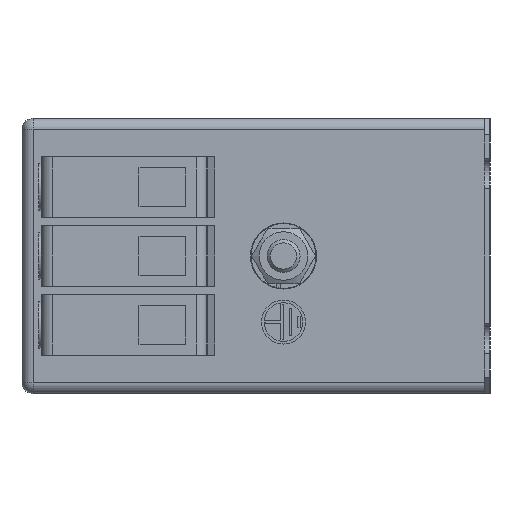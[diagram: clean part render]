
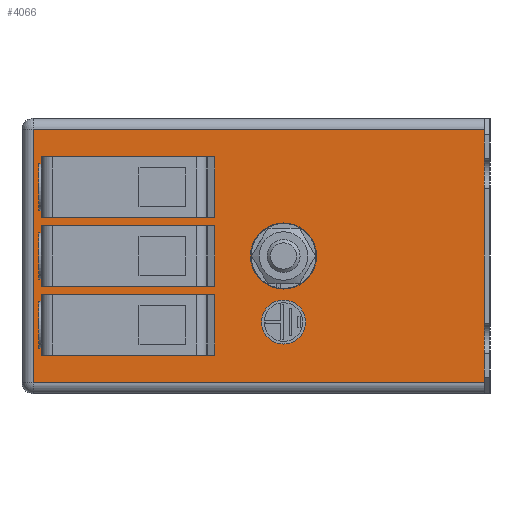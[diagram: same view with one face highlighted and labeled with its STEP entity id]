
A CAD part, left-side view. The second image highlights one B-rep face of the part: STEP entity #4066.
In plain terms, the highlighted planar face has unit normal (-1, 0, 0).
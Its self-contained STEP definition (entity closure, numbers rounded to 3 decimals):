
#81=LINE('',#6077,#447);
#82=LINE('',#6079,#448);
#83=LINE('',#6081,#449);
#84=LINE('',#6082,#450);
#85=LINE('',#6085,#451);
#86=LINE('',#6087,#452);
#87=LINE('',#6089,#453);
#88=LINE('',#6090,#454);
#89=LINE('',#6093,#455);
#90=LINE('',#6095,#456);
#91=LINE('',#6097,#457);
#92=LINE('',#6098,#458);
#93=LINE('',#6103,#459);
#94=LINE('',#6105,#460);
#95=LINE('',#6107,#461);
#96=LINE('',#6108,#462);
#447=VECTOR('',#4899,10.);
#448=VECTOR('',#4900,10.);
#449=VECTOR('',#4901,10.);
#450=VECTOR('',#4902,10.);
#451=VECTOR('',#4903,10.);
#452=VECTOR('',#4904,10.);
#453=VECTOR('',#4905,10.);
#454=VECTOR('',#4906,10.);
#455=VECTOR('',#4907,10.);
#456=VECTOR('',#4908,10.);
#457=VECTOR('',#4909,10.);
#458=VECTOR('',#4910,10.);
#459=VECTOR('',#4913,10.);
#460=VECTOR('',#4914,10.);
#461=VECTOR('',#4915,10.);
#462=VECTOR('',#4916,10.);
#830=PLANE('',#4378);
#1001=FACE_BOUND('',#1384,.T.);
#1002=FACE_BOUND('',#1385,.T.);
#1003=FACE_BOUND('',#1386,.T.);
#1004=FACE_BOUND('',#1387,.T.);
#1005=FACE_BOUND('',#1388,.T.);
#1105=FACE_OUTER_BOUND('',#1383,.T.);
#1383=EDGE_LOOP('',(#2835,#2836,#2837,#2838));
#1384=EDGE_LOOP('',(#2839,#2840,#2841,#2842));
#1385=EDGE_LOOP('',(#2843,#2844,#2845,#2846));
#1386=EDGE_LOOP('',(#2847));
#1387=EDGE_LOOP('',(#2848,#2849,#2850,#2851));
#1388=EDGE_LOOP('',(#2852));
#1659=CIRCLE('',#4377,5.525);
#1660=CIRCLE('',#4379,4.);
#1821=VERTEX_POINT('',#6072);
#1822=VERTEX_POINT('',#6075);
#1823=VERTEX_POINT('',#6076);
#1824=VERTEX_POINT('',#6078);
#1825=VERTEX_POINT('',#6080);
#1826=VERTEX_POINT('',#6083);
#1827=VERTEX_POINT('',#6084);
#1828=VERTEX_POINT('',#6086);
#1829=VERTEX_POINT('',#6088);
#1830=VERTEX_POINT('',#6091);
#1831=VERTEX_POINT('',#6092);
#1832=VERTEX_POINT('',#6094);
#1833=VERTEX_POINT('',#6096);
#1834=VERTEX_POINT('',#6099);
#1835=VERTEX_POINT('',#6101);
#1836=VERTEX_POINT('',#6102);
#1837=VERTEX_POINT('',#6104);
#1838=VERTEX_POINT('',#6106);
#2211=EDGE_CURVE('',#1821,#1821,#1659,.T.);
#2212=EDGE_CURVE('',#1822,#1823,#81,.T.);
#2213=EDGE_CURVE('',#1824,#1822,#82,.T.);
#2214=EDGE_CURVE('',#1825,#1824,#83,.T.);
#2215=EDGE_CURVE('',#1823,#1825,#84,.T.);
#2216=EDGE_CURVE('',#1826,#1827,#85,.T.);
#2217=EDGE_CURVE('',#1827,#1828,#86,.T.);
#2218=EDGE_CURVE('',#1828,#1829,#87,.T.);
#2219=EDGE_CURVE('',#1829,#1826,#88,.T.);
#2220=EDGE_CURVE('',#1830,#1831,#89,.T.);
#2221=EDGE_CURVE('',#1831,#1832,#90,.T.);
#2222=EDGE_CURVE('',#1832,#1833,#91,.T.);
#2223=EDGE_CURVE('',#1833,#1830,#92,.T.);
#2224=EDGE_CURVE('',#1834,#1834,#1660,.T.);
#2225=EDGE_CURVE('',#1835,#1836,#93,.T.);
#2226=EDGE_CURVE('',#1836,#1837,#94,.T.);
#2227=EDGE_CURVE('',#1837,#1838,#95,.T.);
#2228=EDGE_CURVE('',#1838,#1835,#96,.T.);
#2835=ORIENTED_EDGE('',*,*,#2212,.F.);
#2836=ORIENTED_EDGE('',*,*,#2213,.F.);
#2837=ORIENTED_EDGE('',*,*,#2214,.F.);
#2838=ORIENTED_EDGE('',*,*,#2215,.F.);
#2839=ORIENTED_EDGE('',*,*,#2216,.T.);
#2840=ORIENTED_EDGE('',*,*,#2217,.T.);
#2841=ORIENTED_EDGE('',*,*,#2218,.T.);
#2842=ORIENTED_EDGE('',*,*,#2219,.T.);
#2843=ORIENTED_EDGE('',*,*,#2220,.T.);
#2844=ORIENTED_EDGE('',*,*,#2221,.T.);
#2845=ORIENTED_EDGE('',*,*,#2222,.T.);
#2846=ORIENTED_EDGE('',*,*,#2223,.T.);
#2847=ORIENTED_EDGE('',*,*,#2224,.T.);
#2848=ORIENTED_EDGE('',*,*,#2225,.T.);
#2849=ORIENTED_EDGE('',*,*,#2226,.T.);
#2850=ORIENTED_EDGE('',*,*,#2227,.T.);
#2851=ORIENTED_EDGE('',*,*,#2228,.T.);
#2852=ORIENTED_EDGE('',*,*,#2211,.T.);
#4066=ADVANCED_FACE('',(#1105,#1001,#1002,#1003,#1004,#1005),#830,.T.);
#4377=AXIS2_PLACEMENT_3D('',#6073,#4895,#4896);
#4378=AXIS2_PLACEMENT_3D('',#6074,#4897,#4898);
#4379=AXIS2_PLACEMENT_3D('',#6100,#4911,#4912);
#4895=DIRECTION('center_axis',(1.,0.,0.));
#4896=DIRECTION('ref_axis',(0.,0.,-1.));
#4897=DIRECTION('center_axis',(-1.,0.,0.));
#4898=DIRECTION('ref_axis',(0.,0.,1.));
#4899=DIRECTION('',(0.,-1.,0.));
#4900=DIRECTION('',(0.,0.,1.));
#4901=DIRECTION('',(0.,1.,0.));
#4902=DIRECTION('',(0.,0.,-1.));
#4903=DIRECTION('',(0.,1.,0.));
#4904=DIRECTION('',(0.,0.,1.));
#4905=DIRECTION('',(0.,-1.,0.));
#4906=DIRECTION('',(0.,0.,-1.));
#4907=DIRECTION('',(0.,1.,0.));
#4908=DIRECTION('',(0.,0.,1.));
#4909=DIRECTION('',(0.,-1.,0.));
#4910=DIRECTION('',(0.,0.,-1.));
#4911=DIRECTION('center_axis',(1.,0.,0.));
#4912=DIRECTION('ref_axis',(0.,0.,-1.));
#4913=DIRECTION('',(0.,1.,0.));
#4914=DIRECTION('',(0.,0.,1.));
#4915=DIRECTION('',(0.,-1.,0.));
#4916=DIRECTION('',(0.,0.,-1.));
#6072=CARTESIAN_POINT('',(-140.,37.5,-5.525));
#6073=CARTESIAN_POINT('Origin',(-140.,37.5,0.));
#6074=CARTESIAN_POINT('Origin',(-140.,1.,-25.));
#6075=CARTESIAN_POINT('',(-140.,83.,23.));
#6076=CARTESIAN_POINT('',(-140.,1.,23.));
#6077=CARTESIAN_POINT('',(-140.,0.5,23.));
#6078=CARTESIAN_POINT('',(-140.,83.,-23.));
#6079=CARTESIAN_POINT('',(-140.,83.,-12.5));
#6080=CARTESIAN_POINT('',(-140.,1.,-23.));
#6081=CARTESIAN_POINT('',(-140.,0.5,-23.));
#6082=CARTESIAN_POINT('',(-140.,1.,-12.5));
#6083=CARTESIAN_POINT('',(-140.,50.,-18.));
#6084=CARTESIAN_POINT('',(-140.,81.5,-18.));
#6085=CARTESIAN_POINT('',(-140.,33.903,-18.));
#6086=CARTESIAN_POINT('',(-140.,81.5,-7.));
#6087=CARTESIAN_POINT('',(-140.,81.5,-18.75));
#6088=CARTESIAN_POINT('',(-140.,50.,-7.));
#6089=CARTESIAN_POINT('',(-140.,33.903,-7.));
#6090=CARTESIAN_POINT('',(-140.,50.,-18.75));
#6091=CARTESIAN_POINT('',(-140.,50.,-5.5));
#6092=CARTESIAN_POINT('',(-140.,81.5,-5.5));
#6093=CARTESIAN_POINT('',(-140.,33.903,-5.5));
#6094=CARTESIAN_POINT('',(-140.,81.5,5.5));
#6095=CARTESIAN_POINT('',(-140.,81.5,-12.5));
#6096=CARTESIAN_POINT('',(-140.,50.,5.5));
#6097=CARTESIAN_POINT('',(-140.,33.903,5.5));
#6098=CARTESIAN_POINT('',(-140.,50.,-12.5));
#6099=CARTESIAN_POINT('',(-140.,37.5,-8.));
#6100=CARTESIAN_POINT('Origin',(-140.,37.5,-12.));
#6101=CARTESIAN_POINT('',(-140.,50.,7.));
#6102=CARTESIAN_POINT('',(-140.,81.5,7.));
#6103=CARTESIAN_POINT('',(-140.,33.903,7.));
#6104=CARTESIAN_POINT('',(-140.,81.5,18.));
#6105=CARTESIAN_POINT('',(-140.,81.5,-6.25));
#6106=CARTESIAN_POINT('',(-140.,50.,18.));
#6107=CARTESIAN_POINT('',(-140.,33.903,18.));
#6108=CARTESIAN_POINT('',(-140.,50.,-6.25));
